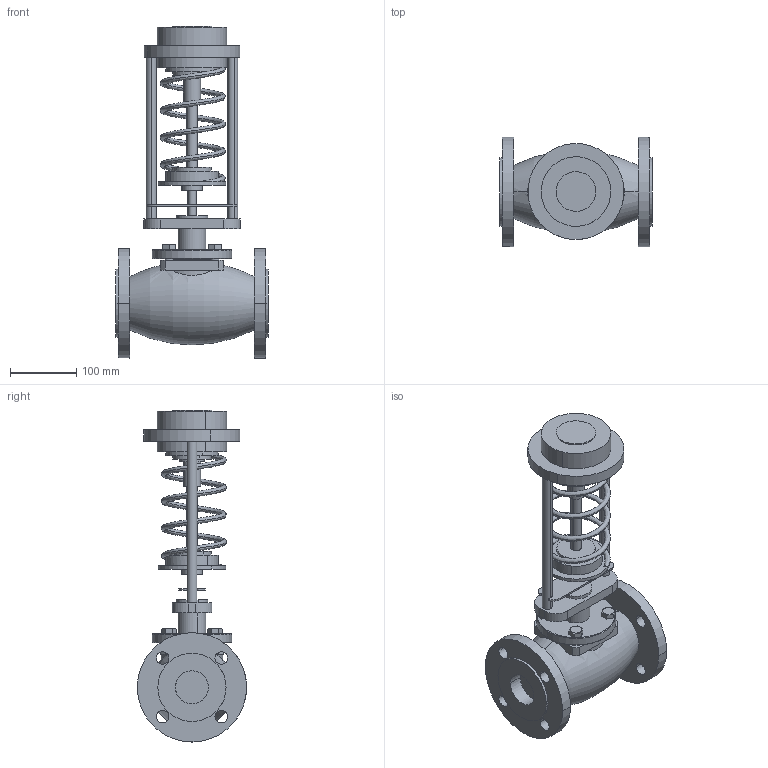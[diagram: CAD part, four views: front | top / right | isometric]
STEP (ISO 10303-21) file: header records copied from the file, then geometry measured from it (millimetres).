
FILE_DESCRIPTION (( 'STEP AP214' ), '1' );
FILE_NAME ('RDT-S, RDT-B DN-50.STEP', '2025-12-12T08:12:22', ( '' ), ( '' ), 'SwSTEP 2.0', 'SolidWorks 2023', '' );
FILE_SCHEMA (( 'AUTOMOTIVE_DESIGN' ));
Length unit declared in the file: millimetre
Products named in the file (1): RDT-S, RDT-B DN-50
Bounding box: 230.08 x 165.18 x 501 mm (x, y, z)
Volume: 4007341.3 mm3; surface area: 378383 mm2
Topology: 1 solids, 1 shells, 205 faces, 509 edges, 330 vertices
Faces by surface type: cylinder 107, plane 81, cone 13, torus 2, bspline 2
Entity records: 18818 total; most frequent: CARTESIAN_POINT 13714, DIRECTION 1112, ORIENTED_EDGE 1018, EDGE_CURVE 509, AXIS2_PLACEMENT_3D 445, VERTEX_POINT 330, EDGE_LOOP 261, CIRCLE 241
